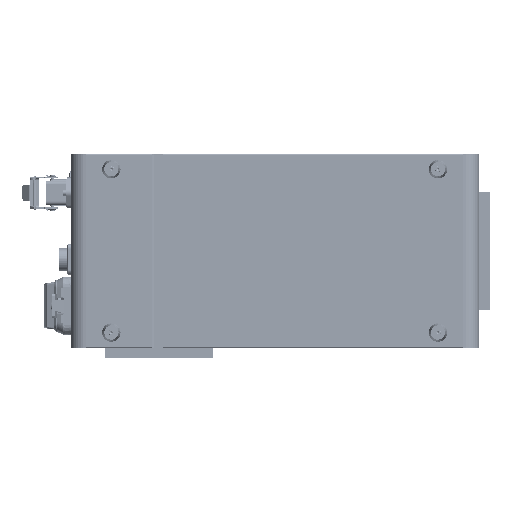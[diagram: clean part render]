
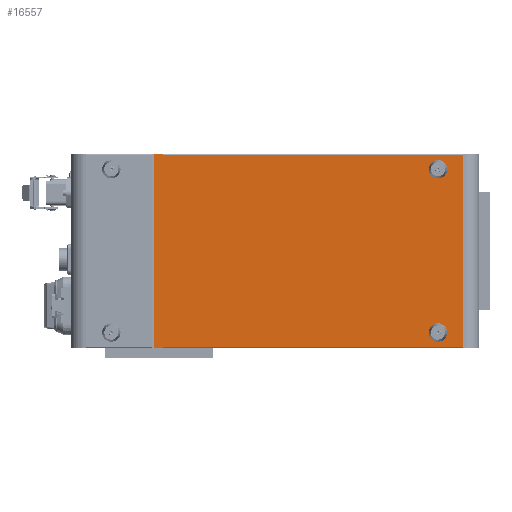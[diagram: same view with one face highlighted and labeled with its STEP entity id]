
A CAD part, front view. The second image highlights one B-rep face of the part: STEP entity #16557.
In plain terms, the highlighted planar face has unit normal (0, -1, 0).
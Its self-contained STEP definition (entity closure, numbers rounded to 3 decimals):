
#14972=DIRECTION('',(0.,0.,1.));
#14973=VECTOR('',#14972,188.);
#14974=CARTESIAN_POINT('',(163.,-177.5,1.));
#14975=LINE('',#14974,#14973);
#15320=DIRECTION('',(-1.,0.,0.));
#15321=VECTOR('',#15320,294.);
#15322=CARTESIAN_POINT('',(163.,-177.5,189.));
#15323=LINE('',#15322,#15321);
#15334=CARTESIAN_POINT('',(-139.,-177.5,1.));
#15335=DIRECTION('',(0.,1.,0.));
#15336=DIRECTION('',(0.,0.,-1.));
#15337=AXIS2_PLACEMENT_3D('',#15334,#15335,#15336);
#15342=CARTESIAN_POINT('',(-139.,-177.5,189.));
#15343=DIRECTION('',(0.,1.,0.));
#15344=DIRECTION('',(-1.,0.,0.));
#15345=AXIS2_PLACEMENT_3D('',#15342,#15343,#15344);
#15350=DIRECTION('',(0.,0.,-1.));
#15351=VECTOR('',#15350,1.);
#15352=CARTESIAN_POINT('',(-131.,-177.5,190.));
#15353=LINE('',#15352,#15351);
#15357=DIRECTION('',(-1.,0.,0.));
#15358=VECTOR('',#15357,8.);
#15359=CARTESIAN_POINT('',(-131.,-177.5,0.));
#15360=LINE('',#15359,#15358);
#15364=CARTESIAN_POINT('',(138.,-177.5,15.));
#15365=DIRECTION('',(0.,-1.,0.));
#15366=DIRECTION('',(-1.,0.,0.));
#15367=AXIS2_PLACEMENT_3D('',#15364,#15365,#15366);
#15372=CARTESIAN_POINT('',(138.,-177.5,15.));
#15373=DIRECTION('',(0.,-1.,0.));
#15374=DIRECTION('',(1.,0.,0.));
#15375=AXIS2_PLACEMENT_3D('',#15372,#15373,#15374);
#15380=CARTESIAN_POINT('',(138.,-177.5,175.));
#15381=DIRECTION('',(0.,-1.,0.));
#15382=DIRECTION('',(-1.,0.,0.));
#15383=AXIS2_PLACEMENT_3D('',#15380,#15381,#15382);
#15388=CARTESIAN_POINT('',(138.,-177.5,175.));
#15389=DIRECTION('',(0.,-1.,0.));
#15390=DIRECTION('',(1.,0.,0.));
#15391=AXIS2_PLACEMENT_3D('',#15388,#15389,#15390);
#15417=DIRECTION('',(0.,0.,1.));
#15418=VECTOR('',#15417,1.);
#15419=CARTESIAN_POINT('',(-131.,-177.5,0.));
#15420=LINE('',#15419,#15418);
#15454=DIRECTION('',(1.,0.,0.));
#15455=VECTOR('',#15454,294.);
#15456=CARTESIAN_POINT('',(-131.,-177.5,1.));
#15457=LINE('',#15456,#15455);
#15730=DIRECTION('',(-1.,0.,0.));
#15731=VECTOR('',#15730,8.);
#15732=CARTESIAN_POINT('',(-131.,-177.5,190.));
#15733=LINE('',#15732,#15731);
#15751=DIRECTION('',(0.,0.,-1.));
#15752=VECTOR('',#15751,188.);
#15753=CARTESIAN_POINT('',(-140.,-177.5,189.));
#15754=LINE('',#15753,#15752);
#16030=CARTESIAN_POINT('',(163.,-177.5,1.));
#16031=VERTEX_POINT('',#16030);
#16032=CARTESIAN_POINT('',(163.,-177.5,189.));
#16033=VERTEX_POINT('',#16032);
#16100=CARTESIAN_POINT('',(-131.,-177.5,189.));
#16101=VERTEX_POINT('',#16100);
#16106=CARTESIAN_POINT('',(-139.,-177.5,0.));
#16107=CARTESIAN_POINT('',(-140.,-177.5,1.));
#16108=VERTEX_POINT('',#16106);
#16109=VERTEX_POINT('',#16107);
#16110=CARTESIAN_POINT('',(-140.,-177.5,189.));
#16111=VERTEX_POINT('',#16110);
#16112=CARTESIAN_POINT('',(-139.,-177.5,190.));
#16113=VERTEX_POINT('',#16112);
#16114=CARTESIAN_POINT('',(-131.,-177.5,190.));
#16115=VERTEX_POINT('',#16114);
#16116=CARTESIAN_POINT('',(-131.,-177.5,1.));
#16117=VERTEX_POINT('',#16116);
#16118=CARTESIAN_POINT('',(-131.,-177.5,0.));
#16119=VERTEX_POINT('',#16118);
#16120=CARTESIAN_POINT('',(136.5,-177.5,15.));
#16121=CARTESIAN_POINT('',(139.5,-177.5,15.));
#16122=VERTEX_POINT('',#16120);
#16123=VERTEX_POINT('',#16121);
#16124=CARTESIAN_POINT('',(136.5,-177.5,175.));
#16125=CARTESIAN_POINT('',(139.5,-177.5,175.));
#16126=VERTEX_POINT('',#16124);
#16127=VERTEX_POINT('',#16125);
#16520=CARTESIAN_POINT('',(-140.,-177.5,0.));
#16521=DIRECTION('',(0.,-1.,0.));
#16522=DIRECTION('',(1.,0.,0.));
#16523=AXIS2_PLACEMENT_3D('',#16520,#16521,#16522);
#16524=PLANE('',#16523);
#16526=ORIENTED_EDGE('',*,*,#16525,.T.);
#16528=ORIENTED_EDGE('',*,*,#16527,.F.);
#16530=ORIENTED_EDGE('',*,*,#16529,.T.);
#16532=ORIENTED_EDGE('',*,*,#16531,.F.);
#16534=ORIENTED_EDGE('',*,*,#16533,.T.);
#16535=ORIENTED_EDGE('',*,*,#16509,.F.);
#16536=ORIENTED_EDGE('',*,*,#16221,.F.);
#16538=ORIENTED_EDGE('',*,*,#16537,.F.);
#16540=ORIENTED_EDGE('',*,*,#16539,.F.);
#16542=ORIENTED_EDGE('',*,*,#16541,.T.);
#16543=EDGE_LOOP('',(#16526,#16528,#16530,#16532,#16534,#16535,#16536,#16538,
#16540,#16542));
#16544=FACE_OUTER_BOUND('',#16543,.F.);
#16546=ORIENTED_EDGE('',*,*,#16545,.T.);
#16548=ORIENTED_EDGE('',*,*,#16547,.T.);
#16549=EDGE_LOOP('',(#16546,#16548));
#16550=FACE_BOUND('',#16549,.F.);
#16552=ORIENTED_EDGE('',*,*,#16551,.T.);
#16554=ORIENTED_EDGE('',*,*,#16553,.T.);
#16555=EDGE_LOOP('',(#16552,#16554));
#16556=FACE_BOUND('',#16555,.F.);
#15338=CIRCLE('',#15337,1.);
#15346=CIRCLE('',#15345,1.);
#15368=CIRCLE('',#15367,1.5);
#15376=CIRCLE('',#15375,1.5);
#15384=CIRCLE('',#15383,1.5);
#15392=CIRCLE('',#15391,1.5);
#16221=EDGE_CURVE('',#16031,#16033,#14975,.T.);
#16509=EDGE_CURVE('',#16033,#16101,#15323,.T.);
#16525=EDGE_CURVE('',#16108,#16109,#15338,.T.);
#16527=EDGE_CURVE('',#16111,#16109,#15754,.T.);
#16529=EDGE_CURVE('',#16111,#16113,#15346,.T.);
#16531=EDGE_CURVE('',#16115,#16113,#15733,.T.);
#16533=EDGE_CURVE('',#16115,#16101,#15353,.T.);
#16537=EDGE_CURVE('',#16117,#16031,#15457,.T.);
#16539=EDGE_CURVE('',#16119,#16117,#15420,.T.);
#16541=EDGE_CURVE('',#16119,#16108,#15360,.T.);
#16545=EDGE_CURVE('',#16122,#16123,#15368,.T.);
#16547=EDGE_CURVE('',#16123,#16122,#15376,.T.);
#16551=EDGE_CURVE('',#16126,#16127,#15384,.T.);
#16553=EDGE_CURVE('',#16127,#16126,#15392,.T.);
#16557=ADVANCED_FACE('',(#16544,#16550,#16556),#16524,.T.);
